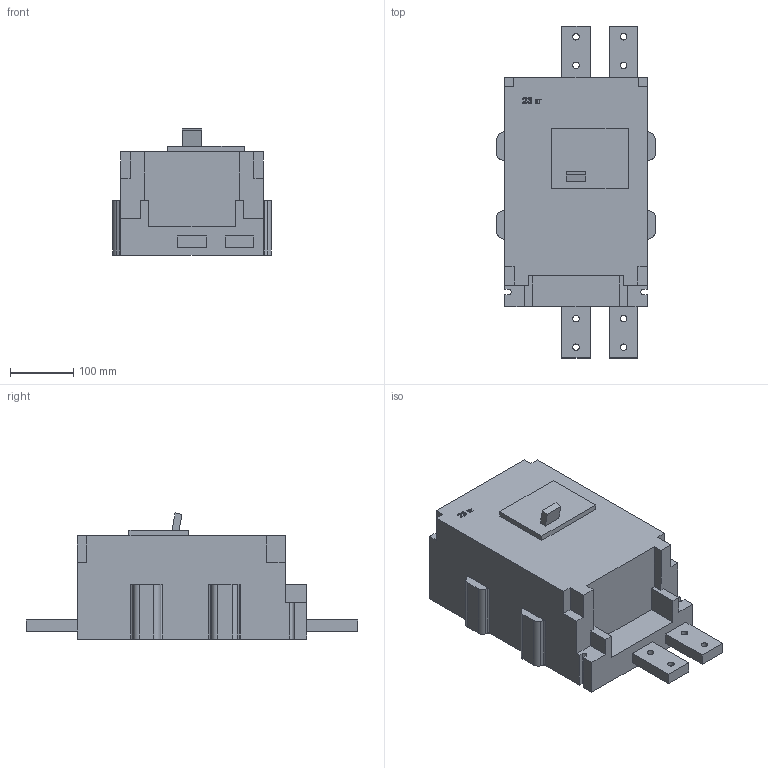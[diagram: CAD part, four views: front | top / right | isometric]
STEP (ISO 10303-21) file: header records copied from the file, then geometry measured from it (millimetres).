
FILE_DESCRIPTION (( 'STEP AP214' ), '1' );
FILE_NAME ('臍52(56)-41 DC.STEP', '2023-02-10T05:54:24', ( 'user' ), ( '' ), 'SwSTEP 2.0', 'SolidWorks 2018', '' );
FILE_SCHEMA (( 'AUTOMOTIVE_DESIGN' ));
Length unit declared in the file: millimetre
Products named in the file (1): 臍52(56)-41 DC
Bounding box: 250 x 523 x 198.64 mm (x, y, z)
Volume: 12604092.1 mm3; surface area: 451881.9 mm2
Topology: 5 solids, 5 shells, 136 faces, 396 edges, 282 vertices
Faces by surface type: plane 98, cylinder 38
Entity records: 5062 total; most frequent: CARTESIAN_POINT 1243, ORIENTED_EDGE 792, DIRECTION 716, EDGE_CURVE 396, VECTOR 290, LINE 290, VERTEX_POINT 282, AXIS2_PLACEMENT_3D 213
